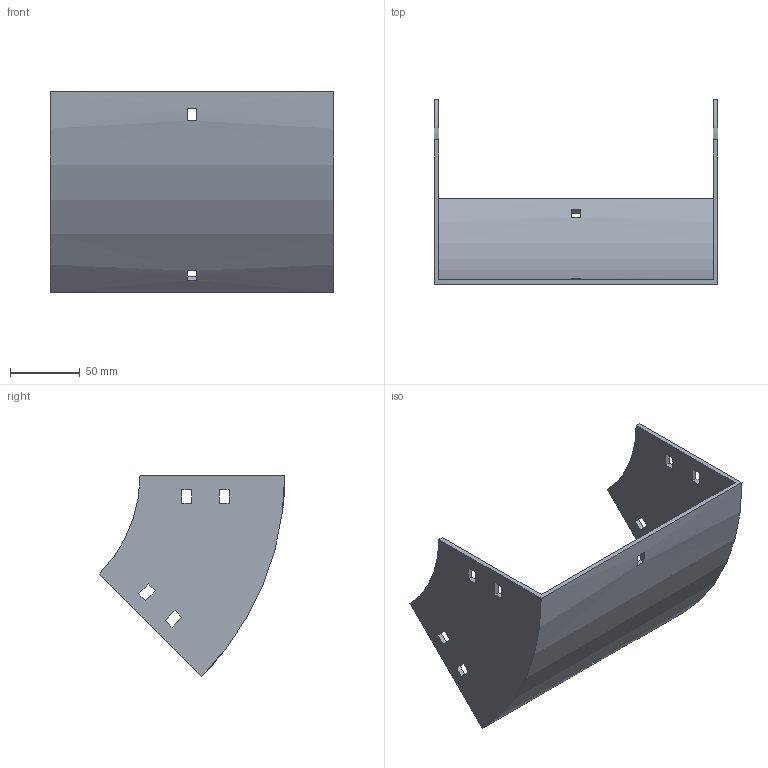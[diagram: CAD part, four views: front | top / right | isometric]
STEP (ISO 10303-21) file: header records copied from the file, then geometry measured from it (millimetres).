
FILE_DESCRIPTION (( 'STEP AP214' ), '1' );
FILE_NAME ('31B1D200.step', '2025-02-21T09:45:40', ( '' ), ( '' ), 'SwSTEP 2.0', 'SolidWorks 2023', '' );
FILE_SCHEMA (( 'AUTOMOTIVE_DESIGN' ));
Length unit declared in the file: millimetre
Products named in the file (1): 31B1D200
Bounding box: 204 x 133.29 x 144.25 mm (x, y, z)
Volume: 194063 mm3; surface area: 115457.3 mm2
Topology: 1 solids, 1 shells, 50 faces, 144 edges, 96 vertices
Faces by surface type: plane 46, cylinder 4
Entity records: 1687 total; most frequent: CARTESIAN_POINT 291, ORIENTED_EDGE 288, DIRECTION 262, EDGE_CURVE 144, LINE 128, VECTOR 128, VERTEX_POINT 96, EDGE_LOOP 70
